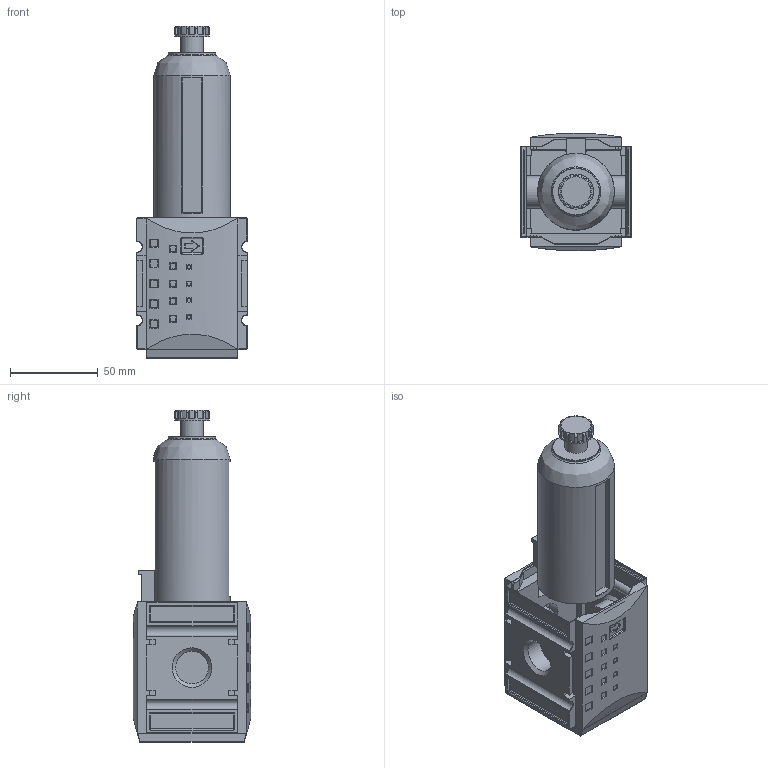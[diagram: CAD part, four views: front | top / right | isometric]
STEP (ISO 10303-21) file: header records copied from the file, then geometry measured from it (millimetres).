
FILE_DESCRIPTION((''),'2;1');
FILE_NAME('K:\ZEICHNG\Kunden Modelle\Airtec Schweden\BG2\KFIL-212.stp','2010-02-01T15:14:06',('DDruske'),(''),'Autodesk Inventor 2009','Autodesk Inventor 2009','');
FILE_SCHEMA(('AUTOMOTIVE_DESIGN { 1 0 10303 214 1 1 1 1 }'));
Length unit declared in the file: millimetre
Products named in the file (1): Bauteil7
Bounding box: 63 x 67.13 x 189.7 mm (x, y, z)
Volume: 397844.2 mm3; surface area: 64753.4 mm2
Topology: 1 solids, 3 shells, 950 faces, 2554 edges, 1584 vertices
Faces by surface type: plane 375, cylinder 326, bspline 135, torus 91, sphere 12, cone 11
Full cylindrical faces by diameter (mm): 11.245 x1, 11.445 x1, 13 x1, 18.631 x1, 19 x2, 20 x1, 27 x1, 43.8 x1
Entity records: 35508 total; most frequent: CARTESIAN_POINT 11640, ORIENTED_EDGE 4990, DIRECTION 4466, EDGE_CURVE 2495, VERTEX_POINT 1579, VECTOR 1504, LINE 1504, AXIS2_PLACEMENT_3D 1481
